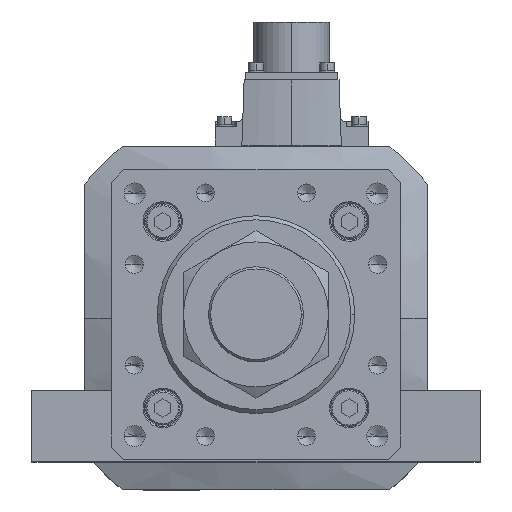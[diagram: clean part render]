
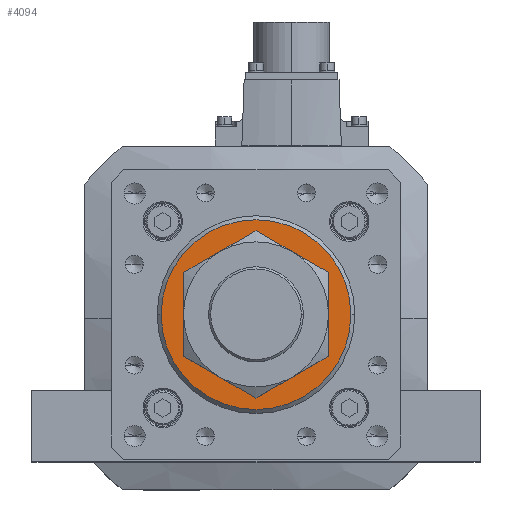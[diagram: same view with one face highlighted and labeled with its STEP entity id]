
A CAD part, top view. The second image highlights one B-rep face of the part: STEP entity #4094.
In plain terms, the highlighted planar face has unit normal (0, 0, 1).
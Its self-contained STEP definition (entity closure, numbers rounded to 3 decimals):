
#146 = EDGE_CURVE ( 'NONE', #3991, #8606, #24629, .T. ) ;
#601 = DIRECTION ( 'NONE',  ( 0., 0., 1. ) ) ;
#813 = AXIS2_PLACEMENT_3D ( 'NONE', #9520, #18607, #12756 ) ;
#945 = DIRECTION ( 'NONE',  ( 1., 0., 0. ) ) ;
#1196 = EDGE_CURVE ( 'NONE', #12740, #33735, #20402, .T. ) ;
#3472 = CARTESIAN_POINT ( 'NONE',  ( -36., 0., 496. ) ) ;
#3991 = VERTEX_POINT ( 'NONE', #3472 ) ;
#4077 = CARTESIAN_POINT ( 'NONE',  ( 36., 0., 496. ) ) ;
#4094 = ADVANCED_FACE ( 'NONE', ( #19539, #21408 ), #24835, .T. ) ;
#4543 = AXIS2_PLACEMENT_3D ( 'NONE', #6586, #601, #7085 ) ;
#5994 = ORIENTED_EDGE ( 'NONE', *, *, #15957, .T. ) ;
#6586 = CARTESIAN_POINT ( 'NONE',  ( 0., 0., 496. ) ) ;
#7085 = DIRECTION ( 'NONE',  ( 1., 0., 0. ) ) ;
#8606 = VERTEX_POINT ( 'NONE', #4077 ) ;
#9517 = CARTESIAN_POINT ( 'NONE',  ( 0., 0., 496. ) ) ;
#9520 = CARTESIAN_POINT ( 'NONE',  ( 0., 0., 496. ) ) ;
#9645 = DIRECTION ( 'NONE',  ( 1., 0., 0. ) ) ;
#9774 = CARTESIAN_POINT ( 'NONE',  ( 0., 0., 496. ) ) ;
#11132 = CARTESIAN_POINT ( 'NONE',  ( 23., 0., 496. ) ) ;
#11382 = ORIENTED_EDGE ( 'NONE', *, *, #146, .T. ) ;
#12740 = VERTEX_POINT ( 'NONE', #20592 ) ;
#12756 = DIRECTION ( 'NONE',  ( 1., 0., 0. ) ) ;
#15957 = EDGE_CURVE ( 'NONE', #8606, #3991, #25063, .T. ) ;
#17276 = DIRECTION ( 'NONE',  ( 0., 0., -1. ) ) ;
#18607 = DIRECTION ( 'NONE',  ( 0., 0., 1. ) ) ;
#19539 = FACE_BOUND ( 'NONE', #34899, .T. ) ;
#19917 = CARTESIAN_POINT ( 'NONE',  ( 0., 0., 496. ) ) ;
#20402 = CIRCLE ( 'NONE', #28351, 23. ) ;
#20592 = CARTESIAN_POINT ( 'NONE',  ( -23., 0., 496. ) ) ;
#21408 = FACE_OUTER_BOUND ( 'NONE', #32813, .T. ) ;
#21560 = AXIS2_PLACEMENT_3D ( 'NONE', #9774, #21566, #945 ) ;
#21566 = DIRECTION ( 'NONE',  ( 0., 0., 1. ) ) ;
#23036 = DIRECTION ( 'NONE',  ( 1., 0., 0. ) ) ;
#24629 = CIRCLE ( 'NONE', #21560, 36. ) ;
#24835 = PLANE ( 'NONE',  #4543 ) ;
#25063 = CIRCLE ( 'NONE', #813, 36. ) ;
#27239 = ORIENTED_EDGE ( 'NONE', *, *, #27394, .T. ) ;
#27394 = EDGE_CURVE ( 'NONE', #33735, #12740, #33783, .T. ) ;
#28351 = AXIS2_PLACEMENT_3D ( 'NONE', #19917, #17276, #23036 ) ;
#30285 = DIRECTION ( 'NONE',  ( 0., 0., -1. ) ) ;
#32813 = EDGE_LOOP ( 'NONE', ( #11382, #5994 ) ) ;
#33735 = VERTEX_POINT ( 'NONE', #11132 ) ;
#33783 = CIRCLE ( 'NONE', #33900, 23. ) ;
#33900 = AXIS2_PLACEMENT_3D ( 'NONE', #9517, #30285, #9645 ) ;
#34319 = ORIENTED_EDGE ( 'NONE', *, *, #1196, .T. ) ;
#34899 = EDGE_LOOP ( 'NONE', ( #27239, #34319 ) ) ;
